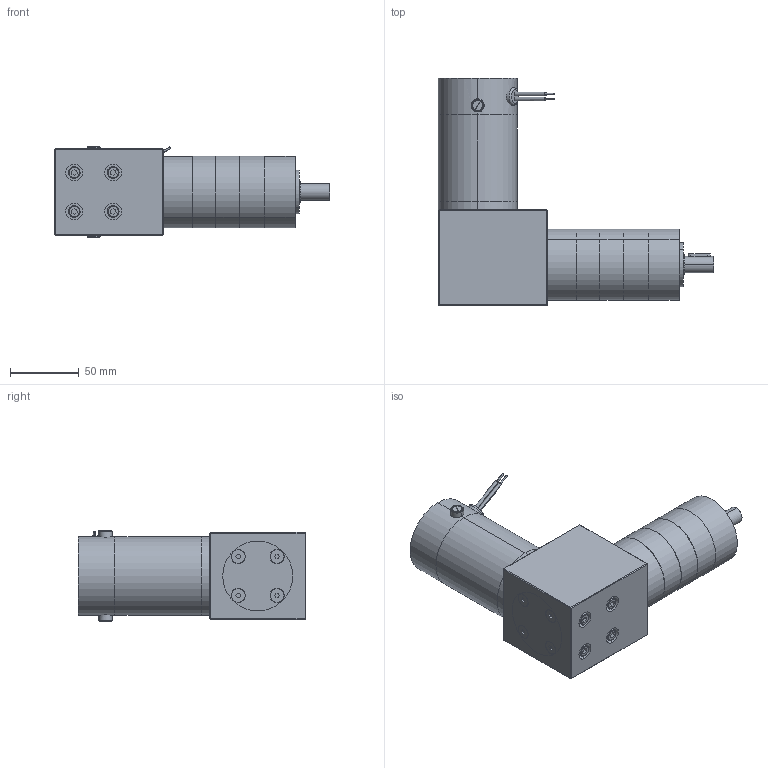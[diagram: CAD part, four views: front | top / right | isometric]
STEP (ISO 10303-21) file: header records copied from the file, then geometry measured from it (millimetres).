
FILE_DESCRIPTION (( 'STEP AP203' ), '1' );
FILE_NAME ('d22376gra4.step', '2018-12-07T19:22:50', ( '' ), ( '' ), 'SwSTEP 2.0', 'SolidWorks 2017', '' );
FILE_SCHEMA (( 'CONFIG_CONTROL_DESIGN' ));
Length unit declared in the file: inch
Products named in the file (1): d22376gra4
Bounding box: 200.02 x 165.4 x 66.04 mm (x, y, z)
Volume: 791591.5 mm3; surface area: 122672.4 mm2
Topology: 24 solids, 24 shells, 574 faces, 1241 edges, 762 vertices
Faces by surface type: plane 244, cylinder 222, cone 97, torus 7, sphere 4
Entity records: 15842 total; most frequent: DIRECTION 2897, CARTESIAN_POINT 2888, ORIENTED_EDGE 2434, EDGE_CURVE 1217, AXIS2_PLACEMENT_3D 1121, VERTEX_POINT 762, EDGE_LOOP 687, VECTOR 655
